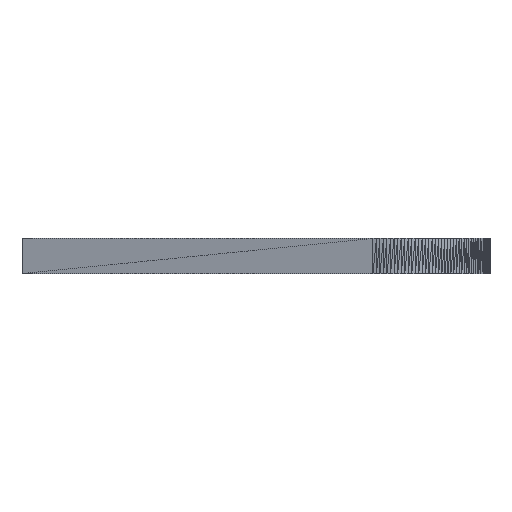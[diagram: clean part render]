
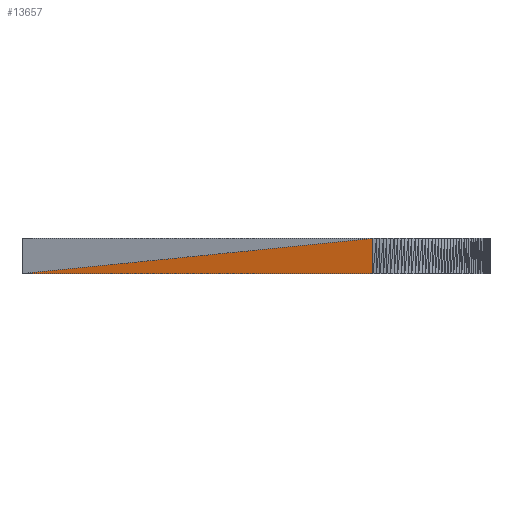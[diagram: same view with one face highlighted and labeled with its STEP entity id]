
A CAD part, left-side view. The second image highlights one B-rep face of the part: STEP entity #13657.
In plain terms, the highlighted planar face has unit normal (-0.968, 0.25, 0).
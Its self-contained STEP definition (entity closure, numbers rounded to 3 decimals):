
#6=CARTESIAN_POINT('',(-7.746,2.,3.));
#7=VERTEX_POINT('',#6);
#38=CARTESIAN_POINT('',(-7.746,2.,0.));
#39=VERTEX_POINT('',#38);
#231=CARTESIAN_POINT('',(0.,32.,0.));
#232=VERTEX_POINT('',#231);
#240=DIRECTION('',(0.25,0.968,0.));
#241=VECTOR('',#240,30.984);
#242=CARTESIAN_POINT('',(-7.746,2.,0.));
#243=LINE('',#242,#241);
#244=EDGE_CURVE('',#39,#232,#243,.T.);
#13637=CARTESIAN_POINT('',(0.,32.,0.));
#13638=DIRECTION('',(-0.968,0.25,0.));
#13639=DIRECTION('',(-0.25,-0.968,0.));
#13640=AXIS2_PLACEMENT_3D('',#13637,#13638,#13639);
#13641=PLANE('',#13640);
#13642=ORIENTED_EDGE('',*,*,#244,.F.);
#13643=DIRECTION('',(0.,0.,1.));
#13644=VECTOR('',#13643,3.);
#13645=CARTESIAN_POINT('',(-7.746,2.,0.));
#13646=LINE('',#13645,#13644);
#13647=EDGE_CURVE('',#39,#7,#13646,.T.);
#13648=ORIENTED_EDGE('',*,*,#13647,.T.);
#13649=DIRECTION('',(0.249,0.964,-0.096));
#13650=VECTOR('',#13649,31.129);
#13651=CARTESIAN_POINT('',(-7.746,2.,3.));
#13652=LINE('',#13651,#13650);
#13653=EDGE_CURVE('',#7,#232,#13652,.T.);
#13654=ORIENTED_EDGE('',*,*,#13653,.T.);
#13655=EDGE_LOOP('',(#13642,#13648,#13654));
#13656=FACE_OUTER_BOUND('',#13655,.T.);
#13657=ADVANCED_FACE('',(#13656),#13641,.T.);
